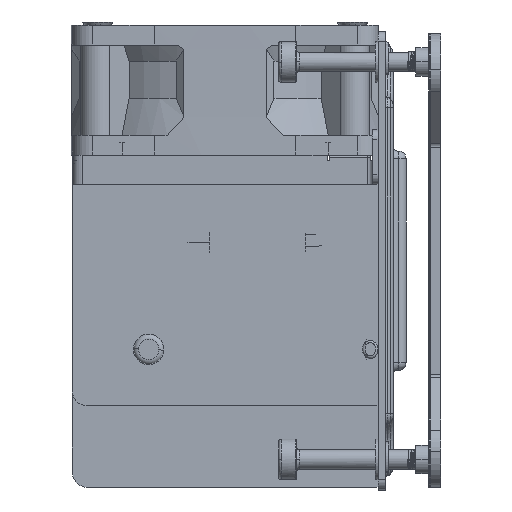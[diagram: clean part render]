
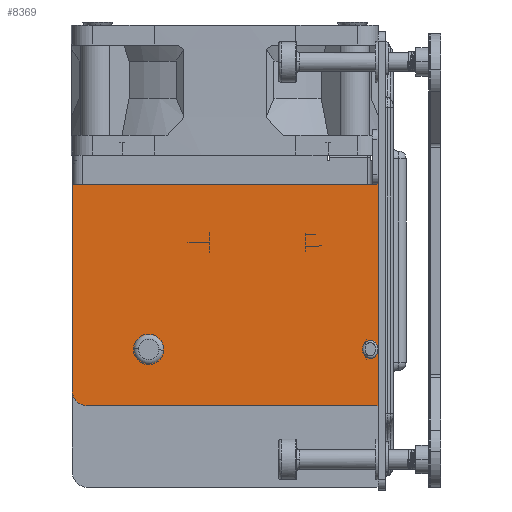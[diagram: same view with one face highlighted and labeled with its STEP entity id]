
A CAD part, left-side view. The second image highlights one B-rep face of the part: STEP entity #8369.
In plain terms, the highlighted planar face has unit normal (-1, 0, 0).
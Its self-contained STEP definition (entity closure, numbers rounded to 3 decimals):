
#2621=DIRECTION('',(0.,0.,1.));
#2622=VECTOR('',#2621,43.5);
#2623=CARTESIAN_POINT('',(-44.,1.4,-28.5));
#2624=LINE('',#2623,#2622);
#4648=CARTESIAN_POINT('',(-44.,58.4,-25.5));
#4649=DIRECTION('',(1.,0.,0.));
#4650=DIRECTION('',(0.,0.,-1.));
#4651=AXIS2_PLACEMENT_3D('',#4648,#4649,#4650);
#4653=DIRECTION('',(0.,0.,1.));
#4654=VECTOR('',#4653,40.5);
#4655=CARTESIAN_POINT('',(-44.,61.4,-25.5));
#4656=LINE('',#4655,#4654);
#4657=DIRECTION('',(0.,1.,0.));
#4658=VECTOR('',#4657,57.);
#4659=CARTESIAN_POINT('',(-44.,1.4,-28.5));
#4660=LINE('',#4659,#4658);
#4661=DIRECTION('',(0.,1.,0.));
#4662=VECTOR('',#4661,60.);
#4663=CARTESIAN_POINT('',(-44.,1.4,15.));
#4664=LINE('',#4663,#4662);
#4835=CARTESIAN_POINT('',(-44.,1.4,-28.5));
#4836=VERTEX_POINT('',#4835);
#4837=CARTESIAN_POINT('',(-44.,1.4,15.));
#4838=VERTEX_POINT('',#4837);
#5302=CARTESIAN_POINT('',(-44.,61.4,-25.5));
#5304=VERTEX_POINT('',#5302);
#5315=CARTESIAN_POINT('',(-44.,61.4,15.));
#5316=VERTEX_POINT('',#5315);
#5317=CARTESIAN_POINT('',(-44.,58.4,-28.5));
#5318=VERTEX_POINT('',#5317);
#8355=CARTESIAN_POINT('',(-44.,1.4,-28.5));
#8356=DIRECTION('',(-1.,0.,0.));
#8357=DIRECTION('',(0.,0.,1.));
#8358=AXIS2_PLACEMENT_3D('',#8355,#8356,#8357);
#8359=PLANE('',#8358);
#8360=ORIENTED_EDGE('',*,*,#8345,.T.);
#8361=ORIENTED_EDGE('',*,*,#8335,.T.);
#8363=ORIENTED_EDGE('',*,*,#8362,.F.);
#8364=ORIENTED_EDGE('',*,*,#5451,.F.);
#8366=ORIENTED_EDGE('',*,*,#8365,.T.);
#8367=EDGE_LOOP('',(#8360,#8361,#8363,#8364,#8366));
#8368=FACE_OUTER_BOUND('',#8367,.F.);
#8369=ADVANCED_FACE('',(#8368),#8359,.T.);
#4652=CIRCLE('',#4651,3.);
#5451=EDGE_CURVE('',#4836,#4838,#2624,.T.);
#8335=EDGE_CURVE('',#5304,#5316,#4656,.T.);
#8345=EDGE_CURVE('',#5318,#5304,#4652,.T.);
#8362=EDGE_CURVE('',#4838,#5316,#4664,.T.);
#8365=EDGE_CURVE('',#4836,#5318,#4660,.T.);
